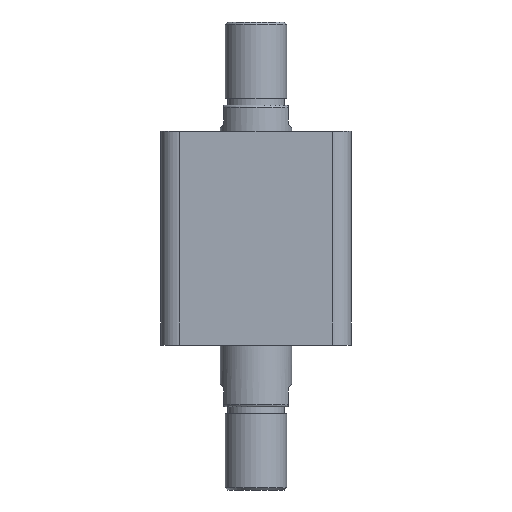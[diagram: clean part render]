
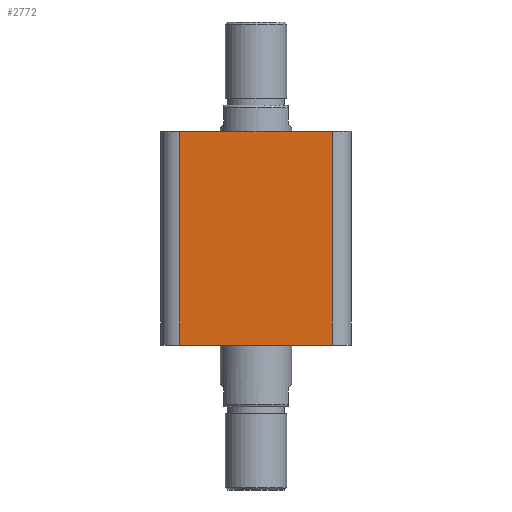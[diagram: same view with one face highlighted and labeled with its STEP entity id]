
A CAD part, front view. The second image highlights one B-rep face of the part: STEP entity #2772.
In plain terms, the highlighted planar face has unit normal (0, -1, 0).
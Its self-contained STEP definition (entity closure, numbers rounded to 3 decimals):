
#182 = FACE_OUTER_BOUND ( 'NONE', #428, .T. ) ;
#428 = EDGE_LOOP ( 'NONE', ( #3039, #3040, #3041, #3042 ) ) ;
#573 = CARTESIAN_POINT ( 'NONE',  ( -32., -40., 0. ) ) ;
#701 = CARTESIAN_POINT ( 'NONE',  ( -40., -40., 90. ) ) ;
#710 = PLANE ( 'NONE',  #1600 ) ;
#711 = DIRECTION ( 'NONE',  ( 0., 1., 0. ) ) ;
#712 = DIRECTION ( 'NONE',  ( 0., 0., 1. ) ) ;
#938 = CARTESIAN_POINT ( 'NONE',  ( 32., -40., 0. ) ) ;
#1002 = CARTESIAN_POINT ( 'NONE',  ( 32., -40., 90. ) ) ;
#1005 = CARTESIAN_POINT ( 'NONE',  ( -32., -40., 90. ) ) ;
#1307 = EDGE_CURVE ( 'NONE', #2841, #3439, #1866, .T. ) ;
#1308 = EDGE_CURVE ( 'NONE', #3443, #2730, #1867, .T. ) ;
#1309 = EDGE_CURVE ( 'NONE', #3443, #3439, #1870, .T. ) ;
#1328 = EDGE_CURVE ( 'NONE', #2730, #2841, #1903, .T. ) ;
#1600 = AXIS2_PLACEMENT_3D ( 'NONE', #701, #711, #712 ) ;
#1866 = LINE ( 'NONE', #2132, #1869 ) ;
#1867 = LINE ( 'NONE', #2131, #1871 ) ;
#1869 = VECTOR ( 'NONE', #2115, 1000. ) ;
#1870 = LINE ( 'NONE', #2137, #1873 ) ;
#1871 = VECTOR ( 'NONE', #2136, 1000. ) ;
#1873 = VECTOR ( 'NONE', #2138, 1000. ) ;
#1903 = LINE ( 'NONE', #2174, #1905 ) ;
#1905 = VECTOR ( 'NONE', #2175, 1000. ) ;
#2115 = DIRECTION ( 'NONE',  ( 0., 0., 1. ) ) ;
#2131 = CARTESIAN_POINT ( 'NONE',  ( -32., -40., 90. ) ) ;
#2132 = CARTESIAN_POINT ( 'NONE',  ( 32., -40., 90. ) ) ;
#2136 = DIRECTION ( 'NONE',  ( 0., 0., -1. ) ) ;
#2137 = CARTESIAN_POINT ( 'NONE',  ( -40., -40., 90. ) ) ;
#2138 = DIRECTION ( 'NONE',  ( 1., 0., 0. ) ) ;
#2174 = CARTESIAN_POINT ( 'NONE',  ( -40., -40., 0. ) ) ;
#2175 = DIRECTION ( 'NONE',  ( 1., 0., 0. ) ) ;
#2730 = VERTEX_POINT ( 'NONE', #573 ) ;
#2772 = ADVANCED_FACE ( 'NONE', ( #182 ), #710, .F. ) ;
#2841 = VERTEX_POINT ( 'NONE', #938 ) ;
#3039 = ORIENTED_EDGE ( 'NONE', *, *, #1309, .F. ) ;
#3040 = ORIENTED_EDGE ( 'NONE', *, *, #1308, .T. ) ;
#3041 = ORIENTED_EDGE ( 'NONE', *, *, #1328, .T. ) ;
#3042 = ORIENTED_EDGE ( 'NONE', *, *, #1307, .T. ) ;
#3439 = VERTEX_POINT ( 'NONE', #1002 ) ;
#3443 = VERTEX_POINT ( 'NONE', #1005 ) ;
